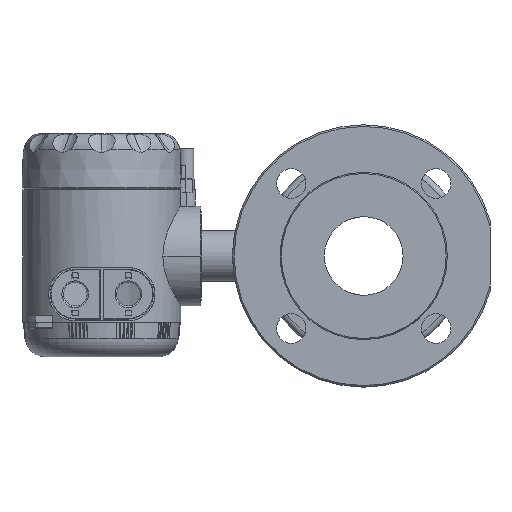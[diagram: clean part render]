
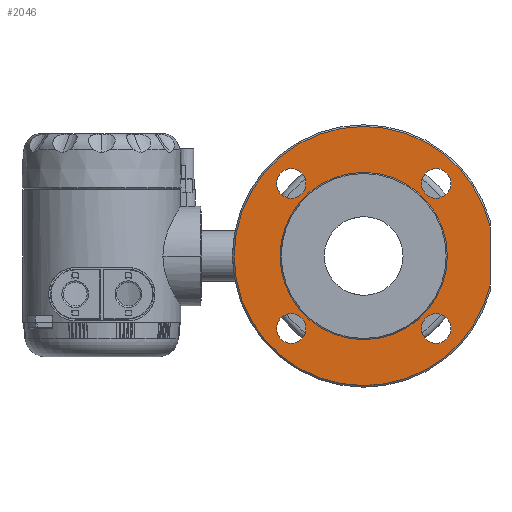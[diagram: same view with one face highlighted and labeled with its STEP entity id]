
A CAD part, left-side view. The second image highlights one B-rep face of the part: STEP entity #2046.
In plain terms, the highlighted planar face has unit normal (-1, 0, 0).
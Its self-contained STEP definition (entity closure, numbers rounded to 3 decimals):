
#131 = EDGE_LOOP ( 'NONE', ( #1312, #1147 ) ) ;
#442 = ORIENTED_EDGE ( 'NONE', *, *, #22191, .T. ) ;
#443 = DIRECTION ( 'NONE',  ( 0., 0., -1. ) ) ;
#715 = ORIENTED_EDGE ( 'NONE', *, *, #21113, .T. ) ;
#921 = ORIENTED_EDGE ( 'NONE', *, *, #22711, .T. ) ;
#937 = AXIS2_PLACEMENT_3D ( 'NONE', #24320, #23267, #9938 ) ;
#986 = EDGE_CURVE ( 'NONE', #6234, #4384, #12872, .T. ) ;
#1123 = CARTESIAN_POINT ( 'NONE',  ( -95.8, -44.194, 35.194 ) ) ;
#1147 = ORIENTED_EDGE ( 'NONE', *, *, #3502, .T. ) ;
#1234 = CIRCLE ( 'NONE', #12820, 51. ) ;
#1312 = ORIENTED_EDGE ( 'NONE', *, *, #7760, .T. ) ;
#1420 = ORIENTED_EDGE ( 'NONE', *, *, #24143, .T. ) ;
#1555 = DIRECTION ( 'NONE',  ( 0., 0., -1. ) ) ;
#1575 = ORIENTED_EDGE ( 'NONE', *, *, #10883, .F. ) ;
#1787 = ORIENTED_EDGE ( 'NONE', *, *, #3541, .F. ) ;
#1929 = VECTOR ( 'NONE', #8892, 1000. ) ;
#2046 = ADVANCED_FACE ( 'NONE', ( #15642, #20046, #5883, #15056, #9915, #4659 ), #21649, .F. ) ;
#2413 = DIRECTION ( 'NONE',  ( -1., 0., 0. ) ) ;
#2675 = CIRCLE ( 'NONE', #7781, 9. ) ;
#3102 = CIRCLE ( 'NONE', #937, 9. ) ;
#3502 = EDGE_CURVE ( 'NONE', #13137, #6123, #3102, .T. ) ;
#3541 = EDGE_CURVE ( 'NONE', #18496, #8792, #1234, .T. ) ;
#3803 = CARTESIAN_POINT ( 'NONE',  ( -95.8, -77., -17.664 ) ) ;
#4204 = CARTESIAN_POINT ( 'NONE',  ( -95.8, 51., 0. ) ) ;
#4238 = DIRECTION ( 'NONE',  ( 1., 0., 0. ) ) ;
#4384 = VERTEX_POINT ( 'NONE', #7303 ) ;
#4563 = ORIENTED_EDGE ( 'NONE', *, *, #15296, .T. ) ;
#4659 = FACE_OUTER_BOUND ( 'NONE', #17523, .T. ) ;
#4756 = DIRECTION ( 'NONE',  ( 1., 0., 0. ) ) ;
#5002 = DIRECTION ( 'NONE',  ( -1., 0., 0. ) ) ;
#5055 = AXIS2_PLACEMENT_3D ( 'NONE', #21205, #9822, #23148 ) ;
#5111 = VERTEX_POINT ( 'NONE', #19714 ) ;
#5278 = CARTESIAN_POINT ( 'NONE',  ( -95.8, -44.194, 44.194 ) ) ;
#5602 = EDGE_LOOP ( 'NONE', ( #7786, #4563 ) ) ;
#5883 = FACE_BOUND ( 'NONE', #8640, .T. ) ;
#6123 = VERTEX_POINT ( 'NONE', #12686 ) ;
#6234 = VERTEX_POINT ( 'NONE', #11066 ) ;
#6524 = VERTEX_POINT ( 'NONE', #7863 ) ;
#6705 = DIRECTION ( 'NONE',  ( 1., 0., 0. ) ) ;
#6832 = EDGE_LOOP ( 'NONE', ( #442, #11683 ) ) ;
#6876 = CARTESIAN_POINT ( 'NONE',  ( -95.8, -77., 0. ) ) ;
#7027 = AXIS2_PLACEMENT_3D ( 'NONE', #4204, #4238, #15144 ) ;
#7253 = DIRECTION ( 'NONE',  ( 0., 0., -1. ) ) ;
#7255 = EDGE_CURVE ( 'NONE', #5111, #22245, #17635, .T. ) ;
#7303 = CARTESIAN_POINT ( 'NONE',  ( -95.8, -44.194, -35.194 ) ) ;
#7550 = CIRCLE ( 'NONE', #15695, 9. ) ;
#7760 = EDGE_CURVE ( 'NONE', #6123, #13137, #17266, .T. ) ;
#7781 = AXIS2_PLACEMENT_3D ( 'NONE', #18281, #6705, #20180 ) ;
#7786 = ORIENTED_EDGE ( 'NONE', *, *, #8666, .T. ) ;
#7863 = CARTESIAN_POINT ( 'NONE',  ( -95.8, 44.194, 53.194 ) ) ;
#7896 = VERTEX_POINT ( 'NONE', #13972 ) ;
#8640 = EDGE_LOOP ( 'NONE', ( #921, #715 ) ) ;
#8666 = EDGE_CURVE ( 'NONE', #24695, #13081, #7550, .T. ) ;
#8741 = CARTESIAN_POINT ( 'NONE',  ( -95.8, 0., 79. ) ) ;
#8792 = VERTEX_POINT ( 'NONE', #23084 ) ;
#8804 = CARTESIAN_POINT ( 'NONE',  ( -95.8, 0., 0. ) ) ;
#8892 = DIRECTION ( 'NONE',  ( 0., 0., -1. ) ) ;
#9822 = DIRECTION ( 'NONE',  ( 1., 0., 0. ) ) ;
#9915 = FACE_BOUND ( 'NONE', #5602, .T. ) ;
#9938 = DIRECTION ( 'NONE',  ( 0., 0., -1. ) ) ;
#10005 = CARTESIAN_POINT ( 'NONE',  ( -95.8, 0., 51. ) ) ;
#10011 = CARTESIAN_POINT ( 'NONE',  ( -95.8, 0., 0. ) ) ;
#10730 = DIRECTION ( 'NONE',  ( 1., 0., 0. ) ) ;
#10781 = DIRECTION ( 'NONE',  ( 0., 0., -1. ) ) ;
#10883 = EDGE_CURVE ( 'NONE', #8792, #18496, #12772, .T. ) ;
#11066 = CARTESIAN_POINT ( 'NONE',  ( -95.8, -44.194, -53.194 ) ) ;
#11067 = CARTESIAN_POINT ( 'NONE',  ( -95.8, -44.194, -44.194 ) ) ;
#11469 = DIRECTION ( 'NONE',  ( 1., 0., 0. ) ) ;
#11493 = DIRECTION ( 'NONE',  ( 0., 0., -1. ) ) ;
#11683 = ORIENTED_EDGE ( 'NONE', *, *, #986, .T. ) ;
#11967 = DIRECTION ( 'NONE',  ( 0., 0., 1. ) ) ;
#12215 = DIRECTION ( 'NONE',  ( -1., 0., 0. ) ) ;
#12402 = LINE ( 'NONE', #6876, #1929 ) ;
#12686 = CARTESIAN_POINT ( 'NONE',  ( -95.8, 44.194, -35.194 ) ) ;
#12772 = CIRCLE ( 'NONE', #17016, 51. ) ;
#12789 = CIRCLE ( 'NONE', #14227, 9. ) ;
#12820 = AXIS2_PLACEMENT_3D ( 'NONE', #16611, #5002, #18527 ) ;
#12872 = CIRCLE ( 'NONE', #14875, 9. ) ;
#13081 = VERTEX_POINT ( 'NONE', #1123 ) ;
#13137 = VERTEX_POINT ( 'NONE', #18691 ) ;
#13355 = DIRECTION ( 'NONE',  ( 1., 0., 0. ) ) ;
#13737 = CIRCLE ( 'NONE', #24153, 79. ) ;
#13946 = CIRCLE ( 'NONE', #16552, 79. ) ;
#13972 = CARTESIAN_POINT ( 'NONE',  ( -95.8, 44.194, 35.194 ) ) ;
#14043 = AXIS2_PLACEMENT_3D ( 'NONE', #22104, #10730, #24010 ) ;
#14146 = CARTESIAN_POINT ( 'NONE',  ( -95.8, 0., 0. ) ) ;
#14227 = AXIS2_PLACEMENT_3D ( 'NONE', #5278, #18798, #7253 ) ;
#14247 = CIRCLE ( 'NONE', #14043, 9. ) ;
#14584 = EDGE_CURVE ( 'NONE', #21292, #16270, #13737, .T. ) ;
#14875 = AXIS2_PLACEMENT_3D ( 'NONE', #11067, #11469, #11493 ) ;
#15056 = FACE_BOUND ( 'NONE', #6832, .T. ) ;
#15144 = DIRECTION ( 'NONE',  ( 0., 0., -1. ) ) ;
#15296 = EDGE_CURVE ( 'NONE', #13081, #24695, #12789, .T. ) ;
#15642 = FACE_BOUND ( 'NONE', #18973, .T. ) ;
#15675 = CIRCLE ( 'NONE', #21466, 9. ) ;
#15695 = AXIS2_PLACEMENT_3D ( 'NONE', #24638, #13355, #1555 ) ;
#16038 = DIRECTION ( 'NONE',  ( 0., 0., -1. ) ) ;
#16075 = EDGE_CURVE ( 'NONE', #5111, #16270, #12402, .T. ) ;
#16270 = VERTEX_POINT ( 'NONE', #3803 ) ;
#16372 = CARTESIAN_POINT ( 'NONE',  ( -95.8, 44.194, 44.194 ) ) ;
#16552 = AXIS2_PLACEMENT_3D ( 'NONE', #8804, #22145, #10781 ) ;
#16611 = CARTESIAN_POINT ( 'NONE',  ( -95.8, 0., 0. ) ) ;
#16904 = ORIENTED_EDGE ( 'NONE', *, *, #14584, .T. ) ;
#17016 = AXIS2_PLACEMENT_3D ( 'NONE', #10011, #23320, #11967 ) ;
#17266 = CIRCLE ( 'NONE', #5055, 9. ) ;
#17523 = EDGE_LOOP ( 'NONE', ( #20802, #22284, #1420, #16904 ) ) ;
#17635 = CIRCLE ( 'NONE', #19917, 79. ) ;
#18281 = CARTESIAN_POINT ( 'NONE',  ( -95.8, 44.194, 44.194 ) ) ;
#18286 = DIRECTION ( 'NONE',  ( 0., 0., -1. ) ) ;
#18496 = VERTEX_POINT ( 'NONE', #10005 ) ;
#18527 = DIRECTION ( 'NONE',  ( 0., 0., 1. ) ) ;
#18691 = CARTESIAN_POINT ( 'NONE',  ( -95.8, 44.194, -53.194 ) ) ;
#18798 = DIRECTION ( 'NONE',  ( 1., 0., 0. ) ) ;
#18973 = EDGE_LOOP ( 'NONE', ( #1787, #1575 ) ) ;
#19714 = CARTESIAN_POINT ( 'NONE',  ( -95.8, -77., 17.664 ) ) ;
#19917 = AXIS2_PLACEMENT_3D ( 'NONE', #23560, #12215, #443 ) ;
#20046 = FACE_BOUND ( 'NONE', #131, .T. ) ;
#20180 = DIRECTION ( 'NONE',  ( 0., 0., -1. ) ) ;
#20802 = ORIENTED_EDGE ( 'NONE', *, *, #16075, .F. ) ;
#20812 = CARTESIAN_POINT ( 'NONE',  ( -95.8, 0., -79. ) ) ;
#21113 = EDGE_CURVE ( 'NONE', #7896, #6524, #2675, .T. ) ;
#21205 = CARTESIAN_POINT ( 'NONE',  ( -95.8, 44.194, -44.194 ) ) ;
#21292 = VERTEX_POINT ( 'NONE', #20812 ) ;
#21466 = AXIS2_PLACEMENT_3D ( 'NONE', #16372, #4756, #18286 ) ;
#21649 = PLANE ( 'NONE',  #7027 ) ;
#22104 = CARTESIAN_POINT ( 'NONE',  ( -95.8, -44.194, -44.194 ) ) ;
#22145 = DIRECTION ( 'NONE',  ( -1., 0., 0. ) ) ;
#22191 = EDGE_CURVE ( 'NONE', #4384, #6234, #14247, .T. ) ;
#22245 = VERTEX_POINT ( 'NONE', #8741 ) ;
#22284 = ORIENTED_EDGE ( 'NONE', *, *, #7255, .T. ) ;
#22711 = EDGE_CURVE ( 'NONE', #6524, #7896, #15675, .T. ) ;
#23084 = CARTESIAN_POINT ( 'NONE',  ( -95.8, 0., -51. ) ) ;
#23148 = DIRECTION ( 'NONE',  ( 0., 0., -1. ) ) ;
#23267 = DIRECTION ( 'NONE',  ( 1., 0., 0. ) ) ;
#23320 = DIRECTION ( 'NONE',  ( -1., 0., 0. ) ) ;
#23560 = CARTESIAN_POINT ( 'NONE',  ( -95.8, 0., 0. ) ) ;
#23737 = CARTESIAN_POINT ( 'NONE',  ( -95.8, -44.194, 53.194 ) ) ;
#24010 = DIRECTION ( 'NONE',  ( 0., 0., -1. ) ) ;
#24143 = EDGE_CURVE ( 'NONE', #22245, #21292, #13946, .T. ) ;
#24153 = AXIS2_PLACEMENT_3D ( 'NONE', #14146, #2413, #16038 ) ;
#24320 = CARTESIAN_POINT ( 'NONE',  ( -95.8, 44.194, -44.194 ) ) ;
#24638 = CARTESIAN_POINT ( 'NONE',  ( -95.8, -44.194, 44.194 ) ) ;
#24695 = VERTEX_POINT ( 'NONE', #23737 ) ;
